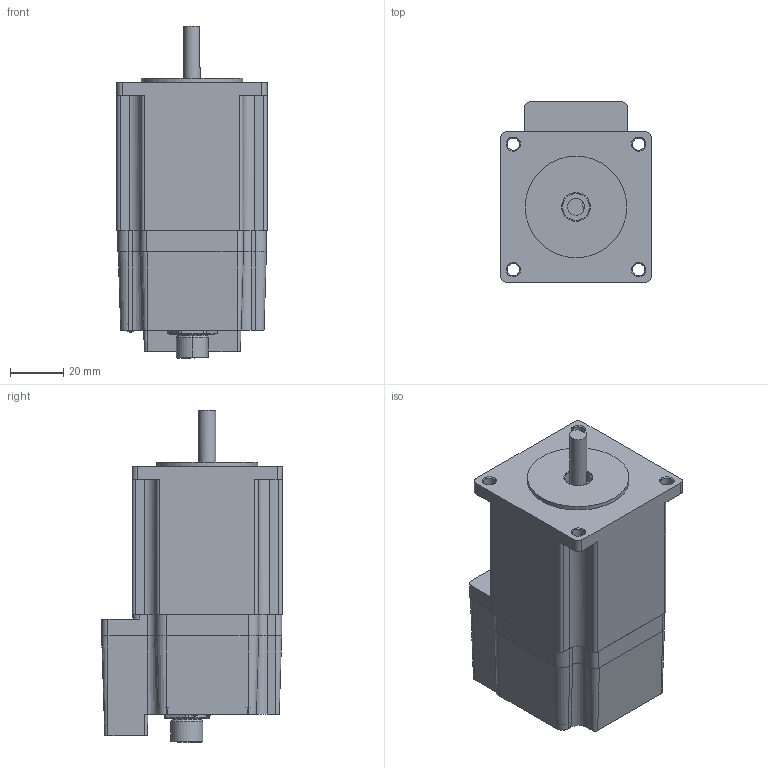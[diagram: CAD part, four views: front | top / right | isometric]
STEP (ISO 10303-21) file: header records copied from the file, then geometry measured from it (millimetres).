
FILE_DESCRIPTION(/* description */ ('Alibre Inc.'),/* implementation_level */ '2;1');
FILE_NAME(/* name */ 'export0',/* time_stamp */ '2016-07-21T16:56:35-04:00',/* author */ (''),/* organization */ (''),/* preprocessor_version */ 'ST-DEVELOPER v14',/* originating_system */ 'Alibre',/* authorisation */ '');
FILE_SCHEMA (('CONFIG_CONTROL_DESIGN'));
Length unit declared in the file: centimetre
Products named in the file (1): ID_1
Bounding box: 56.4 x 67.82 x 124.61 mm (x, y, z)
Volume: 277852.2 mm3; surface area: 37537.7 mm2
Topology: 3 solids, 20 shells, 557 faces, 1293 edges, 834 vertices
Faces by surface type: plane 218, cylinder 195, bspline 64, cone 48, torus 28, sphere 4
Full cylindrical faces by diameter (mm): 1.1 x8, 2.156 x4, 2.87 x4, 2.92 x2, 3.556 x4, 4.6 x4, 5.44 x4, 6.35 x1, 7.938 x1, 8 x2, 10 x1, 10.795 x2, 12.7 x2, 26 x2, 38.1 x1
Entity records: 16186 total; most frequent: CARTESIAN_POINT 4270, ORIENTED_EDGE 2416, DIRECTION 2229, EDGE_CURVE 1208, AXIS2_PLACEMENT_3D 952, VERTEX_POINT 809, EDGE_LOOP 695, FACE_BOUND 695
